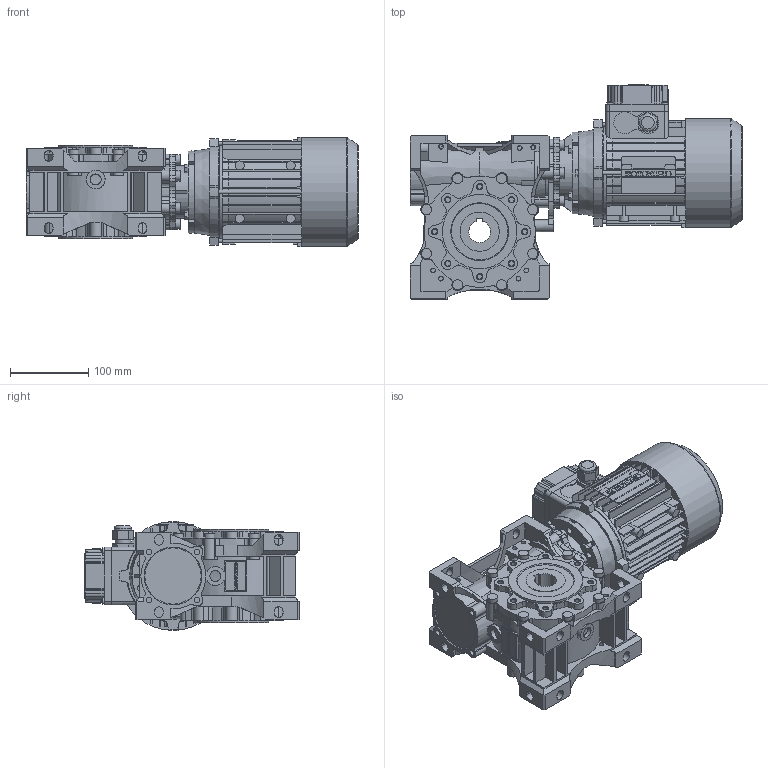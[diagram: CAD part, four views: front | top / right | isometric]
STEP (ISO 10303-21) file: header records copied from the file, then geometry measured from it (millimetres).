
FILE_DESCRIPTION(/* description */ ('STEP AP203'),/* implementation_level */ '2;1');
FILE_NAME(/* name */ 'NMRVP 075 105x14 28 NO NO - - NO - - - NO T 071 -1-(-----IC411NONO------STD)',/* time_stamp */ '2023-05-08T09:29:39+02:00',/* author */ ('License CC BY-ND 4.0'),/* organization */ ('CADENAS'),/* preprocessor_version */ 'ST-DEVELOPER v19.3',/* originating_system */ 'PARTsolutions',/* authorisation */ ' ');
FILE_SCHEMA (('CONFIG_CONTROL_DESIGN'));
Products named in the file (12): NMRVP 075 105x14 28 NO NO - - NO - - - NO T 071 -1-(-----IC411NONO---
---STD); 75-50; ALBERO_T07114X30NO; PRESSACAVO_2; COPRIMORSETTIERA_T071A002; COPRIVENTOLA_T_071_IC411_NO_-_-_-_-_STD; CARCASSA_T-071IC411B1414X30NONO--; FLANGIA_T071B14-; 7571 B14; W.075.14.14.M-p; 075-28 (120); W.075.01.M
Assembly tree (11 placements, depth 2):
  NMRVP 075 105x14 28 NO NO - - NO - - - NO T 071 -1-(-----IC411NONO---
---STD)
    75-50
    ALBERO_T07114X30NO
    PRESSACAVO_2
    COPRIMORSETTIERA_T071A002
    COPRIVENTOLA_T_071_IC411_NO_-_-_-_-_STD
    CARCASSA_T-071IC411B1414X30NONO--
    FLANGIA_T071B14-
    7571 B14
    W.075.14.14.M-p
    075-28 (120)
    W.075.01.M
Bounding box: 424 x 273.5 x 139.37 mm (x, y, z)
Volume: 5778146 mm3; surface area: 660952.5 mm2
Topology: 11 solids, 17 shells, 3192 faces, 8820 edges, 5853 vertices
Faces by surface type: plane 1736, cylinder 1366, cone 81, torus 5, sphere 4
Full cylindrical faces by diameter (mm): 1.8 x1, 2.02 x1, 4.134 x1, 5 x4, 5.3 x1, 5.5 x4, 6 x18, 6.647 x16, 7.26 x12, 8 x4, 8.5 x6, 10 x1, 11.5 x4, 13 x14, 14 x4, 15 x1, 20 x2, 22 x1, 24 x1, 29 x1, 31 x1, 40 x1, 42 x1, 48 x1, 50 x3, 68 x3, 70 x2, 95 x2, 113 x2, 118 x2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
Entity records: 113041 total; most frequent: CARTESIAN_POINT 18756, DIRECTION 17828, ORIENTED_EDGE 17258, EDGE_CURVE 8629, AXIS2_PLACEMENT_3D 6300, VERTEX_POINT 5824, LINE 5228, VECTOR 5228
